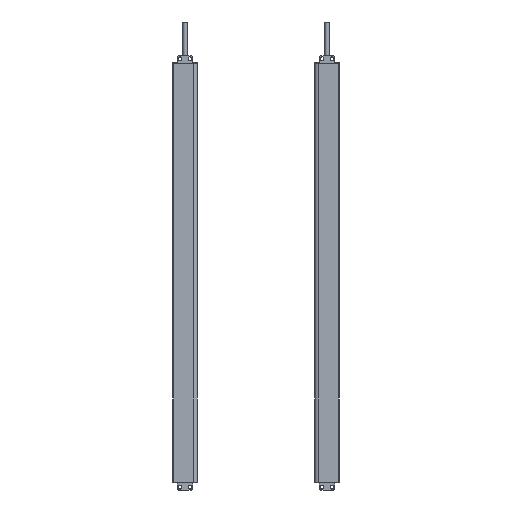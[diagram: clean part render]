
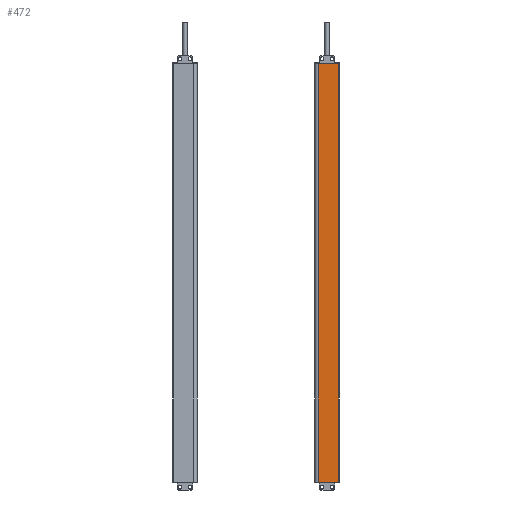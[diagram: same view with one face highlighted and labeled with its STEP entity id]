
A CAD part, front view. The second image highlights one B-rep face of the part: STEP entity #472.
In plain terms, the highlighted planar face has unit normal (0, -1, 0).
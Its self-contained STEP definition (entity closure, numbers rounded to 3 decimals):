
#291=PLANE('',#5985);
#472=ADVANCED_FACE('',(#904),#291,.T.);
#904=FACE_OUTER_BOUND('',#1178,.T.);
#1178=EDGE_LOOP('',(#2781,#2782,#2783,#2784));
#1583=LINE('',#8433,#2137);
#1585=LINE('',#8442,#2139);
#1586=LINE('',#8445,#2140);
#1587=LINE('',#8446,#2141);
#2137=VECTOR('',#6736,1.);
#2139=VECTOR('',#6744,1.);
#2140=VECTOR('',#6745,1.);
#2141=VECTOR('',#6746,1.);
#2781=ORIENTED_EDGE('',*,*,#4939,.F.);
#2782=ORIENTED_EDGE('',*,*,#4940,.T.);
#2783=ORIENTED_EDGE('',*,*,#4935,.T.);
#2784=ORIENTED_EDGE('',*,*,#4941,.F.);
#4337=VERTEX_POINT('',#8434);
#4338=VERTEX_POINT('',#8435);
#4341=VERTEX_POINT('',#8443);
#4342=VERTEX_POINT('',#8444);
#4935=EDGE_CURVE('',#4337,#4338,#1583,.T.);
#4939=EDGE_CURVE('',#4341,#4342,#1585,.T.);
#4940=EDGE_CURVE('',#4341,#4337,#1586,.T.);
#4941=EDGE_CURVE('',#4342,#4338,#1587,.T.);
#5985=AXIS2_PLACEMENT_3D('',#8447,#6747,#6748);
#6736=DIRECTION('',(0.,0.,1.));
#6744=DIRECTION('',(0.,0.,1.));
#6745=DIRECTION('',(1.,0.,0.));
#6746=DIRECTION('',(1.,0.,0.));
#6747=DIRECTION('',(0.,-1.,0.));
#6748=DIRECTION('',(1.,0.,0.));
#8433=CARTESIAN_POINT('',(3.35,-1.3,-100.));
#8434=CARTESIAN_POINT('',(3.35,-1.3,-140.));
#8435=CARTESIAN_POINT('',(3.35,-1.3,362.));
#8442=CARTESIAN_POINT('',(-21.15,-1.3,-100.));
#8443=CARTESIAN_POINT('',(-21.15,-1.3,-140.));
#8444=CARTESIAN_POINT('',(-21.15,-1.3,362.));
#8445=CARTESIAN_POINT('',(-4122.897,-1.3,-140.));
#8446=CARTESIAN_POINT('',(-4122.897,-1.3,362.));
#8447=CARTESIAN_POINT('',(-21.15,-1.3,-100.));
